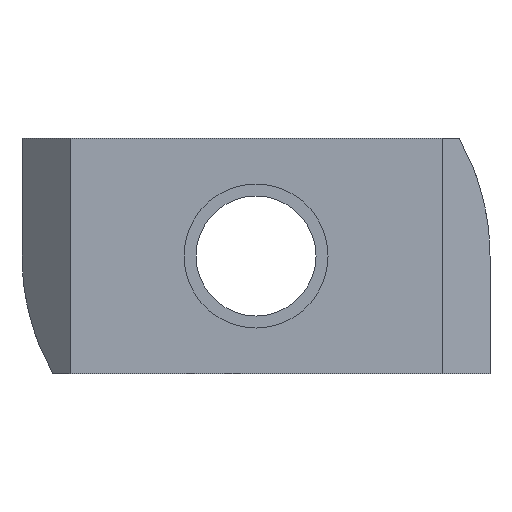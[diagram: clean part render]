
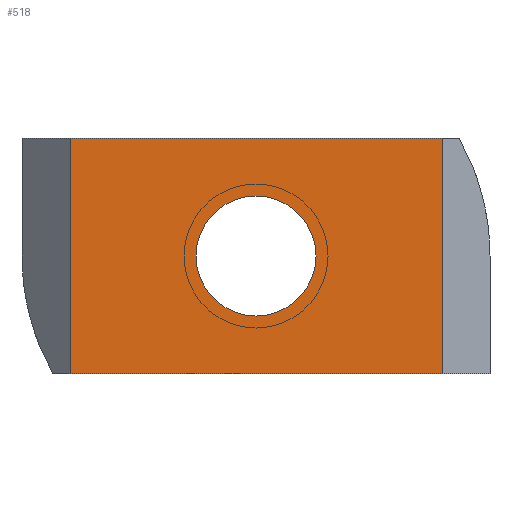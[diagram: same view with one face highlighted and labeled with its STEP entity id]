
A CAD part, front view. The second image highlights one B-rep face of the part: STEP entity #518.
In plain terms, the highlighted planar face has unit normal (0, -1, 0).
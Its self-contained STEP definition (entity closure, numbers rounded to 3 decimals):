
#133=DIRECTION('',(0.,0.,1.));
#134=VECTOR('',#133,9.8);
#135=CARTESIAN_POINT('',(7.75,-5.5,-4.9));
#136=LINE('',#135,#134);
#155=DIRECTION('',(-1.,0.,0.));
#156=VECTOR('',#155,15.5);
#157=CARTESIAN_POINT('',(7.75,-5.5,4.9));
#158=LINE('',#157,#156);
#159=DIRECTION('',(1.,0.,0.));
#160=VECTOR('',#159,15.5);
#161=CARTESIAN_POINT('',(-7.75,-5.5,-4.9));
#162=LINE('',#161,#160);
#163=CARTESIAN_POINT('',(0.,-5.5,0.));
#164=DIRECTION('',(0.,1.,0.));
#165=DIRECTION('',(1.,0.,0.));
#166=AXIS2_PLACEMENT_3D('',#163,#164,#165);
#168=CARTESIAN_POINT('',(0.,-5.5,0.));
#169=DIRECTION('',(0.,1.,0.));
#170=DIRECTION('',(-1.,0.,0.));
#171=AXIS2_PLACEMENT_3D('',#168,#169,#170);
#173=DIRECTION('',(0.,0.,-1.));
#174=VECTOR('',#173,9.8);
#175=CARTESIAN_POINT('',(-7.75,-5.5,4.9));
#176=LINE('',#175,#174);
#265=CARTESIAN_POINT('',(2.5,-5.5,0.));
#266=CARTESIAN_POINT('',(-2.5,-5.5,0.));
#267=VERTEX_POINT('',#265);
#268=VERTEX_POINT('',#266);
#273=CARTESIAN_POINT('',(-7.75,-5.5,4.9));
#274=CARTESIAN_POINT('',(-7.75,-5.5,-4.9));
#275=VERTEX_POINT('',#273);
#276=VERTEX_POINT('',#274);
#283=CARTESIAN_POINT('',(7.75,-5.5,-4.9));
#284=CARTESIAN_POINT('',(7.75,-5.5,4.9));
#285=VERTEX_POINT('',#283);
#286=VERTEX_POINT('',#284);
#500=CARTESIAN_POINT('',(0.,-5.5,0.));
#501=DIRECTION('',(0.,1.,0.));
#502=DIRECTION('',(1.,0.,0.));
#503=AXIS2_PLACEMENT_3D('',#500,#501,#502);
#504=PLANE('',#503);
#505=ORIENTED_EDGE('',*,*,#446,.F.);
#506=ORIENTED_EDGE('',*,*,#491,.F.);
#507=ORIENTED_EDGE('',*,*,#359,.F.);
#509=ORIENTED_EDGE('',*,*,#508,.F.);
#510=EDGE_LOOP('',(#505,#506,#507,#509));
#511=FACE_OUTER_BOUND('',#510,.F.);
#513=ORIENTED_EDGE('',*,*,#512,.F.);
#515=ORIENTED_EDGE('',*,*,#514,.F.);
#516=EDGE_LOOP('',(#513,#515));
#517=FACE_BOUND('',#516,.F.);
#518=ADVANCED_FACE('',(#511,#517),#504,.F.);
#167=CIRCLE('',#166,2.5);
#172=CIRCLE('',#171,2.5);
#359=EDGE_CURVE('',#276,#285,#162,.T.);
#446=EDGE_CURVE('',#286,#275,#158,.T.);
#491=EDGE_CURVE('',#285,#286,#136,.T.);
#508=EDGE_CURVE('',#275,#276,#176,.T.);
#512=EDGE_CURVE('',#267,#268,#167,.T.);
#514=EDGE_CURVE('',#268,#267,#172,.T.);
